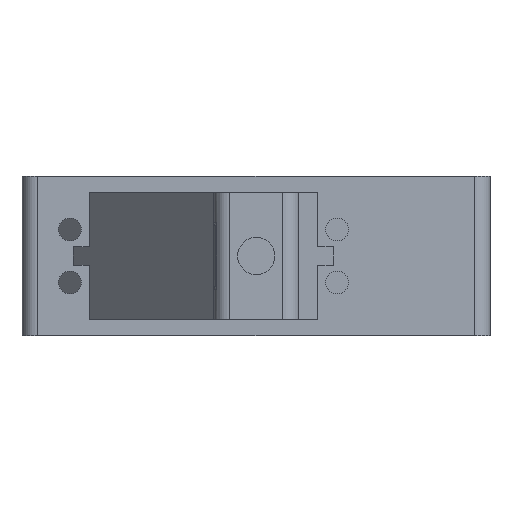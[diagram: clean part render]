
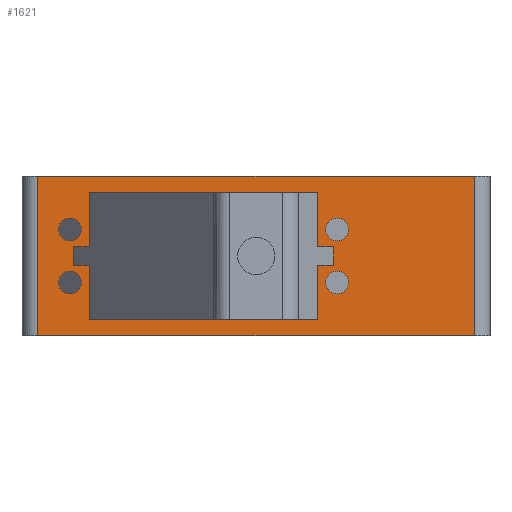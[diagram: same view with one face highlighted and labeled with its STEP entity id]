
A CAD part, front view. The second image highlights one B-rep face of the part: STEP entity #1621.
In plain terms, the highlighted planar face has unit normal (0, -1, 0).
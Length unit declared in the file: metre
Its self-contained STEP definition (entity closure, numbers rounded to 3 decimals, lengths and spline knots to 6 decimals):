
#78=CIRCLE('',#1749,0.00215);
#79=CIRCLE('',#1750,0.00215);
#80=CIRCLE('',#1751,0.00215);
#81=CIRCLE('',#1752,0.00215);
#216=ORIENTED_EDGE('',*,*,#674,.F.);
#217=ORIENTED_EDGE('',*,*,#675,.F.);
#218=ORIENTED_EDGE('',*,*,#676,.F.);
#219=ORIENTED_EDGE('',*,*,#677,.F.);
#220=ORIENTED_EDGE('',*,*,#582,.F.);
#221=ORIENTED_EDGE('',*,*,#678,.T.);
#222=ORIENTED_EDGE('',*,*,#629,.T.);
#223=ORIENTED_EDGE('',*,*,#679,.T.);
#224=ORIENTED_EDGE('',*,*,#680,.T.);
#225=ORIENTED_EDGE('',*,*,#681,.T.);
#226=ORIENTED_EDGE('',*,*,#682,.F.);
#227=ORIENTED_EDGE('',*,*,#683,.T.);
#228=ORIENTED_EDGE('',*,*,#684,.F.);
#229=ORIENTED_EDGE('',*,*,#685,.F.);
#230=ORIENTED_EDGE('',*,*,#686,.F.);
#231=ORIENTED_EDGE('',*,*,#687,.F.);
#232=ORIENTED_EDGE('',*,*,#688,.T.);
#233=ORIENTED_EDGE('',*,*,#689,.F.);
#234=ORIENTED_EDGE('',*,*,#690,.T.);
#235=ORIENTED_EDGE('',*,*,#691,.T.);
#582=EDGE_CURVE('',#813,#814,#974,.T.);
#629=EDGE_CURVE('',#860,#861,#1008,.T.);
#674=EDGE_CURVE('',#901,#901,#78,.T.);
#675=EDGE_CURVE('',#902,#902,#79,.T.);
#676=EDGE_CURVE('',#903,#903,#80,.T.);
#677=EDGE_CURVE('',#904,#904,#81,.T.);
#678=EDGE_CURVE('',#813,#860,#1039,.T.);
#679=EDGE_CURVE('',#861,#814,#1040,.F.);
#680=EDGE_CURVE('',#905,#906,#1041,.T.);
#681=EDGE_CURVE('',#906,#907,#1042,.T.);
#682=EDGE_CURVE('',#908,#907,#1043,.T.);
#683=EDGE_CURVE('',#908,#909,#1044,.T.);
#684=EDGE_CURVE('',#910,#909,#1045,.T.);
#685=EDGE_CURVE('',#911,#910,#1046,.T.);
#686=EDGE_CURVE('',#912,#911,#1047,.T.);
#687=EDGE_CURVE('',#913,#912,#1048,.T.);
#688=EDGE_CURVE('',#913,#914,#1049,.T.);
#689=EDGE_CURVE('',#915,#914,#1050,.T.);
#690=EDGE_CURVE('',#915,#916,#1051,.T.);
#691=EDGE_CURVE('',#916,#905,#1052,.T.);
#813=VERTEX_POINT('',#2351);
#814=VERTEX_POINT('',#2353);
#860=VERTEX_POINT('',#2447);
#861=VERTEX_POINT('',#2448);
#901=VERTEX_POINT('',#2536);
#902=VERTEX_POINT('',#2538);
#903=VERTEX_POINT('',#2540);
#904=VERTEX_POINT('',#2542);
#905=VERTEX_POINT('',#2546);
#906=VERTEX_POINT('',#2547);
#907=VERTEX_POINT('',#2549);
#908=VERTEX_POINT('',#2551);
#909=VERTEX_POINT('',#2553);
#910=VERTEX_POINT('',#2555);
#911=VERTEX_POINT('',#2557);
#912=VERTEX_POINT('',#2559);
#913=VERTEX_POINT('',#2561);
#914=VERTEX_POINT('',#2563);
#915=VERTEX_POINT('',#2565);
#916=VERTEX_POINT('',#2567);
#974=LINE('',#2352,#1137);
#1008=LINE('',#2446,#1171);
#1039=LINE('',#2543,#1202);
#1040=LINE('',#2544,#1203);
#1041=LINE('',#2545,#1204);
#1042=LINE('',#2548,#1205);
#1043=LINE('',#2550,#1206);
#1044=LINE('',#2552,#1207);
#1045=LINE('',#2554,#1208);
#1046=LINE('',#2556,#1209);
#1047=LINE('',#2558,#1210);
#1048=LINE('',#2560,#1211);
#1049=LINE('',#2562,#1212);
#1050=LINE('',#2564,#1213);
#1051=LINE('',#2566,#1214);
#1052=LINE('',#2568,#1215);
#1137=VECTOR('',#1879,1.);
#1171=VECTOR('',#1941,1.);
#1202=VECTOR('',#2014,1.);
#1203=VECTOR('',#2015,1.);
#1204=VECTOR('',#2016,1.);
#1205=VECTOR('',#2017,1.);
#1206=VECTOR('',#2018,1.);
#1207=VECTOR('',#2019,1.);
#1208=VECTOR('',#2020,1.);
#1209=VECTOR('',#2021,1.);
#1210=VECTOR('',#2022,1.);
#1211=VECTOR('',#2023,1.);
#1212=VECTOR('',#2024,1.);
#1213=VECTOR('',#2025,1.);
#1214=VECTOR('',#2026,1.);
#1215=VECTOR('',#2027,1.);
#1305=EDGE_LOOP('',(#216));
#1306=EDGE_LOOP('',(#217));
#1307=EDGE_LOOP('',(#218));
#1308=EDGE_LOOP('',(#219));
#1309=EDGE_LOOP('',(#220,#221,#222,#223));
#1310=EDGE_LOOP('',(#224,#225,#226,#227,#228,#229,#230,#231,#232,#233,#234,
#235));
#1440=FACE_BOUND('',#1305,.T.);
#1441=FACE_BOUND('',#1306,.T.);
#1442=FACE_BOUND('',#1307,.T.);
#1443=FACE_BOUND('',#1308,.T.);
#1444=FACE_BOUND('',#1309,.T.);
#1445=FACE_BOUND('',#1310,.T.);
#1569=PLANE('',#1748);
#1621=ADVANCED_FACE('',(#1440,#1441,#1442,#1443,#1444,#1445),#1569,.F.);
#1748=AXIS2_PLACEMENT_3D('',#2534,#2004,#2005);
#1749=AXIS2_PLACEMENT_3D('',#2535,#2006,#2007);
#1750=AXIS2_PLACEMENT_3D('',#2537,#2008,#2009);
#1751=AXIS2_PLACEMENT_3D('',#2539,#2010,#2011);
#1752=AXIS2_PLACEMENT_3D('',#2541,#2012,#2013);
#1879=DIRECTION('',(1.,0.,0.));
#1941=DIRECTION('',(1.,0.,0.));
#2004=DIRECTION('',(0.,1.,0.));
#2005=DIRECTION('',(0.,0.,1.));
#2006=DIRECTION('',(0.,-1.,0.));
#2007=DIRECTION('',(0.,0.,-1.));
#2008=DIRECTION('',(0.,-1.,0.));
#2009=DIRECTION('',(0.,0.,-1.));
#2010=DIRECTION('',(0.,-1.,0.));
#2011=DIRECTION('',(0.,0.,-1.));
#2012=DIRECTION('',(0.,-1.,0.));
#2013=DIRECTION('',(0.,0.,-1.));
#2014=DIRECTION('',(0.,0.,-1.));
#2015=DIRECTION('',(0.,0.,-1.));
#2016=DIRECTION('',(1.,0.,0.));
#2017=DIRECTION('',(0.,0.,-1.));
#2018=DIRECTION('',(1.,0.,0.));
#2019=DIRECTION('',(0.,0.,-1.));
#2020=DIRECTION('',(1.,0.,0.));
#2021=DIRECTION('',(0.,0.,-1.));
#2022=DIRECTION('',(1.,0.,0.));
#2023=DIRECTION('',(0.,0.,-1.));
#2024=DIRECTION('',(1.,0.,0.));
#2025=DIRECTION('',(0.,0.,-1.));
#2026=DIRECTION('',(1.,0.,0.));
#2027=DIRECTION('',(0.,0.,-1.));
#2351=CARTESIAN_POINT('',(-0.059565,-0.137919,0.03));
#2352=CARTESIAN_POINT('',(-0.01846,-0.137919,0.03));
#2353=CARTESIAN_POINT('',(0.022646,-0.137919,0.03));
#2446=CARTESIAN_POINT('',(-0.01846,-0.137919,0.));
#2447=CARTESIAN_POINT('',(-0.059565,-0.137919,0.));
#2448=CARTESIAN_POINT('',(0.022646,-0.137919,0.));
#2534=CARTESIAN_POINT('',(-0.01846,-0.137919,0.03));
#2535=CARTESIAN_POINT('',(-0.05356,-0.137919,0.01));
#2536=CARTESIAN_POINT('',(-0.05356,-0.137919,0.00785));
#2537=CARTESIAN_POINT('',(-0.05356,-0.137919,0.02));
#2538=CARTESIAN_POINT('',(-0.05356,-0.137919,0.01785));
#2539=CARTESIAN_POINT('',(-0.00316,-0.137919,0.01));
#2540=CARTESIAN_POINT('',(-0.00316,-0.137919,0.00785));
#2541=CARTESIAN_POINT('',(-0.00316,-0.137919,0.02));
#2542=CARTESIAN_POINT('',(-0.00316,-0.137919,0.01785));
#2543=CARTESIAN_POINT('',(-0.059565,-0.137919,0.03));
#2544=CARTESIAN_POINT('',(0.022646,-0.137919,0.03));
#2545=CARTESIAN_POINT('',(-0.00536,-0.137919,0.01675));
#2546=CARTESIAN_POINT('',(-0.00686,-0.137919,0.01675));
#2547=CARTESIAN_POINT('',(-0.00386,-0.137919,0.01675));
#2548=CARTESIAN_POINT('',(-0.00386,-0.137919,0.015));
#2549=CARTESIAN_POINT('',(-0.00386,-0.137919,0.01325));
#2550=CARTESIAN_POINT('',(-0.00536,-0.137919,0.01325));
#2551=CARTESIAN_POINT('',(-0.00686,-0.137919,0.01325));
#2552=CARTESIAN_POINT('',(-0.00686,-0.137919,0.008125));
#2553=CARTESIAN_POINT('',(-0.00686,-0.137919,0.003));
#2554=CARTESIAN_POINT('',(-0.02836,-0.137919,0.003));
#2555=CARTESIAN_POINT('',(-0.04986,-0.137919,0.003));
#2556=CARTESIAN_POINT('',(-0.04986,-0.137919,0.008125));
#2557=CARTESIAN_POINT('',(-0.04986,-0.137919,0.01325));
#2558=CARTESIAN_POINT('',(-0.05136,-0.137919,0.01325));
#2559=CARTESIAN_POINT('',(-0.05286,-0.137919,0.01325));
#2560=CARTESIAN_POINT('',(-0.05286,-0.137919,0.015));
#2561=CARTESIAN_POINT('',(-0.05286,-0.137919,0.01675));
#2562=CARTESIAN_POINT('',(-0.05136,-0.137919,0.01675));
#2563=CARTESIAN_POINT('',(-0.04986,-0.137919,0.01675));
#2564=CARTESIAN_POINT('',(-0.04986,-0.137919,0.021875));
#2565=CARTESIAN_POINT('',(-0.04986,-0.137919,0.027));
#2566=CARTESIAN_POINT('',(-0.02836,-0.137919,0.027));
#2567=CARTESIAN_POINT('',(-0.00686,-0.137919,0.027));
#2568=CARTESIAN_POINT('',(-0.00686,-0.137919,0.021875));
